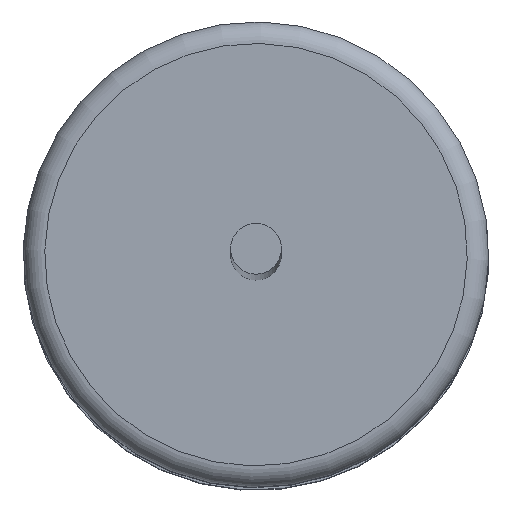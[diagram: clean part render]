
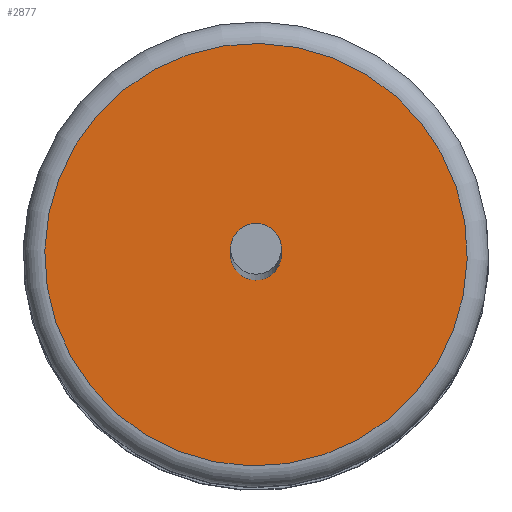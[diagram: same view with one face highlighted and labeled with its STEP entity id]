
A CAD part, top view. The second image highlights one B-rep face of the part: STEP entity #2877.
In plain terms, the highlighted planar face has unit normal (0, 0, 1) as drawn and (0, -1, 0) by its records, which use the part's own axes.
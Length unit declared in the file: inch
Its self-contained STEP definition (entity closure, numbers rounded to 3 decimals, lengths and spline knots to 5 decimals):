
#262=FACE_BOUND('',#651,.T.);
#331=PLANE('',#3128);
#487=FACE_OUTER_BOUND('',#650,.T.);
#650=EDGE_LOOP('',(#2694,#2695));
#651=EDGE_LOOP('',(#2696));
#1126=CIRCLE('',#3118,0.01181);
#1127=CIRCLE('',#3121,0.09827);
#1131=CIRCLE('',#3125,0.09827);
#1412=VERTEX_POINT('',#6440);
#1413=VERTEX_POINT('',#6445);
#1414=VERTEX_POINT('',#6446);
#1837=EDGE_CURVE('',#1412,#1412,#1126,.T.);
#1838=EDGE_CURVE('',#1413,#1414,#1127,.T.);
#1842=EDGE_CURVE('',#1414,#1413,#1131,.T.);
#2694=ORIENTED_EDGE('',*,*,#1838,.F.);
#2695=ORIENTED_EDGE('',*,*,#1842,.F.);
#2696=ORIENTED_EDGE('',*,*,#1837,.T.);
#2877=ADVANCED_FACE('',(#487,#262),#331,.F.);
#3118=AXIS2_PLACEMENT_3D('',#6442,#3671,#3672);
#3121=AXIS2_PLACEMENT_3D('',#6447,#3677,#3678);
#3125=AXIS2_PLACEMENT_3D('',#6453,#3685,#3686);
#3128=AXIS2_PLACEMENT_3D('',#6458,#3692,#3693);
#3671=DIRECTION('center_axis',(0.,1.,0.));
#3672=DIRECTION('ref_axis',(-1.,0.,0.));
#3677=DIRECTION('center_axis',(0.,1.,0.));
#3678=DIRECTION('ref_axis',(1.,0.,0.));
#3685=DIRECTION('center_axis',(0.,1.,0.));
#3686=DIRECTION('ref_axis',(1.,0.,0.));
#3692=DIRECTION('center_axis',(0.,1.,0.));
#3693=DIRECTION('ref_axis',(0.,0.,1.));
#6440=CARTESIAN_POINT('',(0.01181,0.,0.));
#6442=CARTESIAN_POINT('Origin',(0.,0.,0.));
#6445=CARTESIAN_POINT('',(-0.09827,0.,0.));
#6446=CARTESIAN_POINT('',(0.,0.,0.09827));
#6447=CARTESIAN_POINT('Origin',(0.,0.,0.));
#6453=CARTESIAN_POINT('Origin',(0.,0.,0.));
#6458=CARTESIAN_POINT('Origin',(0.,0.,0.));
